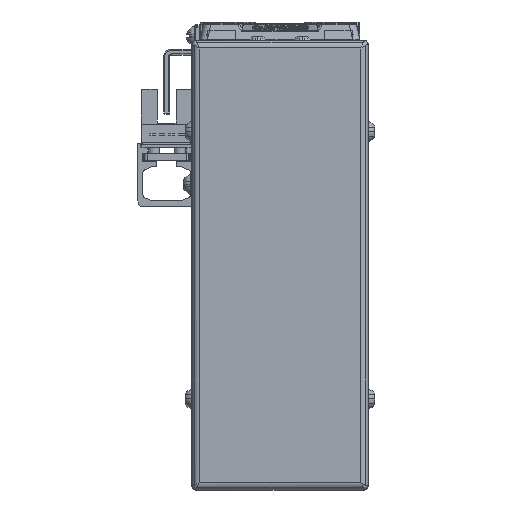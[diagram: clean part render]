
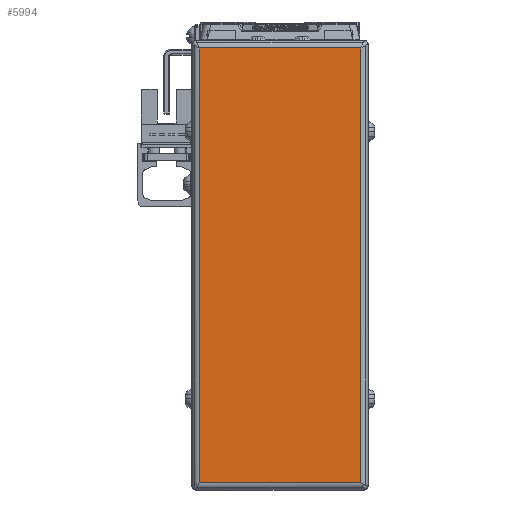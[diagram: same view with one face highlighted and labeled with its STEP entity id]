
A CAD part, left-side view. The second image highlights one B-rep face of the part: STEP entity #5994.
In plain terms, the highlighted planar face has unit normal (-1, 0, 0).
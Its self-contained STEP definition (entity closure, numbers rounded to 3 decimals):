
#5994=ADVANCED_FACE('',(#12657),#12658,.T.);
#12657=FACE_OUTER_BOUND('',#22562,.T.);
#12658=PLANE('',#22563);
#22562=EDGE_LOOP('',(#40245,#40246,#40247,#40248));
#22563=AXIS2_PLACEMENT_3D('',#40249,#40250,#40251);
#40245=ORIENTED_EDGE('',*,*,#48976,.F.);
#40246=ORIENTED_EDGE('',*,*,#53634,.F.);
#40247=ORIENTED_EDGE('',*,*,#52387,.F.);
#40248=ORIENTED_EDGE('',*,*,#52472,.F.);
#40249=CARTESIAN_POINT('',(-48.,0.,-42.5));
#40250=DIRECTION('',(-1.0,0.,0.));
#40251=DIRECTION('',(0.,0.,1.0));
#48976=EDGE_CURVE('',#59001,#59003,#59004,.T.);
#52387=EDGE_CURVE('',#64111,#55237,#64113,.T.);
#52472=EDGE_CURVE('',#59003,#64111,#64227,.T.);
#53634=EDGE_CURVE('',#55237,#59001,#65647,.T.);
#55237=VERTEX_POINT('',#67729);
#59001=VERTEX_POINT('',#72882);
#59003=VERTEX_POINT('',#72884);
#59004=LINE('',#72885,#72886);
#64111=VERTEX_POINT('',#80200);
#64113=LINE('',#80202,#80203);
#64227=LINE('',#80363,#80364);
#65647=LINE('',#82449,#82450);
#67729=CARTESIAN_POINT('',(-48.,21.7,-101.0));
#72882=CARTESIAN_POINT('',(-48.,21.7,16.));
#72884=CARTESIAN_POINT('',(-48.,-21.7,16.));
#72885=CARTESIAN_POINT('',(-48.,0.,16.));
#72886=VECTOR('',#87642,10.0);
#80200=CARTESIAN_POINT('',(-48.,-21.7,-101.0));
#80202=CARTESIAN_POINT('',(-48.,0.,-101.0));
#80203=VECTOR('',#92071,10.0);
#80363=CARTESIAN_POINT('',(-48.,-21.7,-42.5));
#80364=VECTOR('',#92175,10.0);
#82449=CARTESIAN_POINT('',(-48.,21.7,-42.5));
#82450=VECTOR('',#93417,10.0);
#87642=DIRECTION('',(0.,-1.0,0.));
#92071=DIRECTION('',(0.,1.0,0.));
#92175=DIRECTION('',(0.,0.,-1.0));
#93417=DIRECTION('',(0.,0.,1.0));
